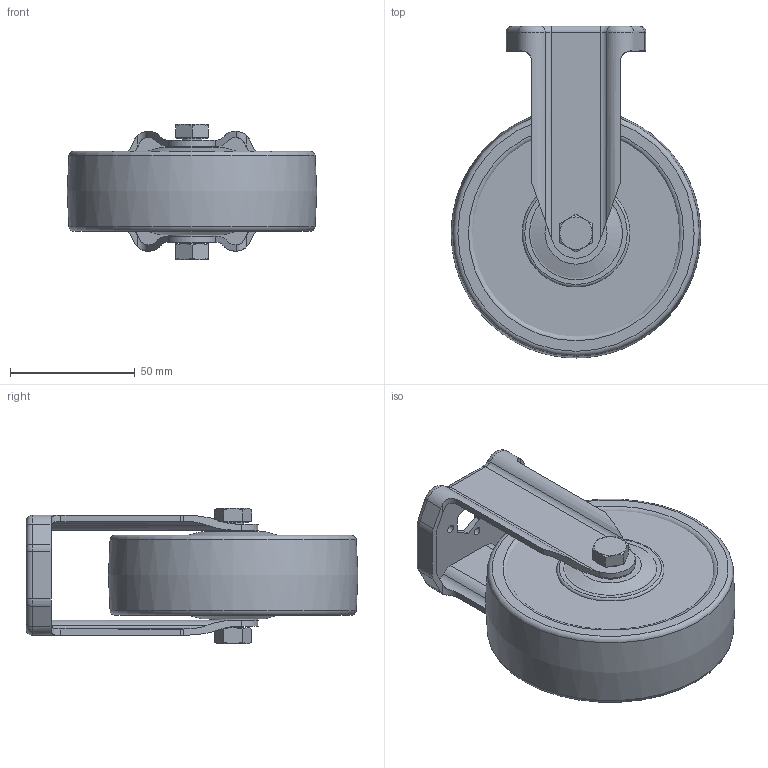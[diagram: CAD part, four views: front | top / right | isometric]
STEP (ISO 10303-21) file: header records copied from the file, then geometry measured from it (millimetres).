
FILE_DESCRIPTION(/* description */ ('STEP AP214'),/* implementation_level */ '2;1');
FILE_NAME(/* name */ '098F100UNESD',/* time_stamp */ '2023-08-29T09:30:14+02:00',/* author */ ('License CC BY-ND 4.0'),/* organization */ ('CADENAS'),/* preprocessor_version */ 'ST-DEVELOPER v19.3',/* originating_system */ 'PARTsolutions',/* authorisation */ ' ');
FILE_SCHEMA (('AUTOMOTIVE_DESIGN {1 0 10303 214 3 1 1}'));
Length unit declared in the file: millimetre
Products named in the file (6): 098F100UNESD; 098F100UNESDn; 098F100UNESDs; 098F100UNESDp3; 098F100UNESDp2; 098F100UNESDp1
Assembly tree (5 placements, depth 2):
  098F100UNESD
    098F100UNESDn
    098F100UNESDs
    098F100UNESDp3
    098F100UNESDp2
    098F100UNESDp1
Bounding box: 100 x 133 x 54.2 mm (x, y, z)
Volume: 208079.2 mm3; surface area: 80449.7 mm2
Topology: 5 solids, 5 shells, 187 faces, 430 edges, 267 vertices
Faces by surface type: plane 68, cylinder 61, cone 31, torus 27
Full cylindrical faces by diameter (mm): 3.3 x3, 6.647 x1, 8 x2, 8.2 x3, 8.5 x3, 12.5 x1, 19.5 x2, 38 x2, 39 x2
Entity records: 5286 total; most frequent: CARTESIAN_POINT 1019, DIRECTION 896, ORIENTED_EDGE 762, EDGE_CURVE 381, AXIS2_PLACEMENT_3D 374, EDGE_LOOP 266, FACE_BOUND 266, VERTEX_POINT 265
